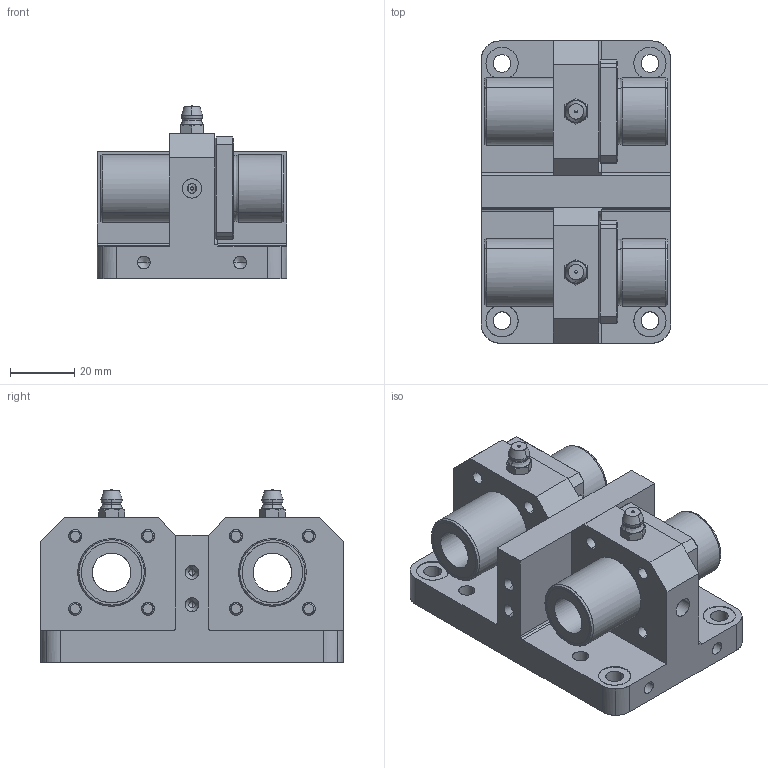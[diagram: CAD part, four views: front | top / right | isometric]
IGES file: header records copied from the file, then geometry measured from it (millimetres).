
Global section: file name: No Iges File Name specified; native system: AutoDesk Inventor R10; preprocessor: AutoDesk Inventor Iges Exporter R10; author: No Author specified; organization: No Organization specified; date: 20101227.093345; units: millimetre
Bounding box: 59 x 94 x 53.8 mm (x, y, z)
Surface area: 47408.7 mm2 (no closed solid volume)
Topology: 0 solids, 0 shells, 552 faces, 3586 edges, 3544 vertices
Faces by surface type: bspline 552
